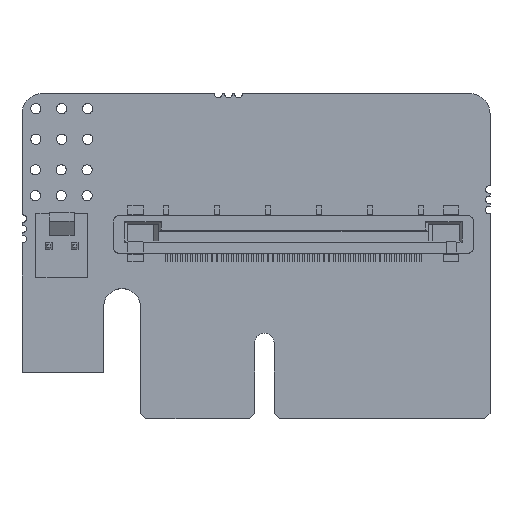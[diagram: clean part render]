
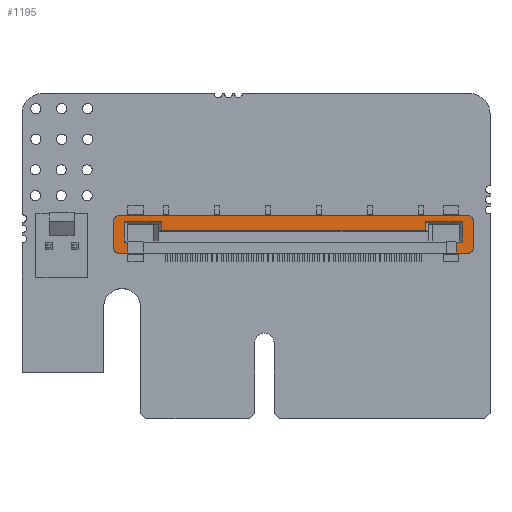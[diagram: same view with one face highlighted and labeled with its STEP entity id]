
A CAD part, top view. The second image highlights one B-rep face of the part: STEP entity #1195.
In plain terms, the highlighted planar face has unit normal (0, 0, 1).
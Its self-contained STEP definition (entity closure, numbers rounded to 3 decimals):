
#398=CIRCLE('',#18782,0.5);
#399=CIRCLE('',#18783,0.5);
#400=CIRCLE('',#18784,0.5);
#401=CIRCLE('',#18785,0.5);
#1195=ADVANCED_FACE('',(#2812),#2154,.T.);
#2154=PLANE('',#18786);
#2812=FACE_OUTER_BOUND('',#3826,.T.);
#3826=EDGE_LOOP('',(#5487,#5488,#5489,#5490,#5491,#5492,#5493,#5494,#5495,
#5496,#5497,#5498,#5499,#5500,#5501,#5502,#5503,#5504,#5505,#5506));
#5487=ORIENTED_EDGE('',*,*,#12477,.T.);
#5488=ORIENTED_EDGE('',*,*,#12478,.T.);
#5489=ORIENTED_EDGE('',*,*,#12479,.T.);
#5490=ORIENTED_EDGE('',*,*,#12480,.T.);
#5491=ORIENTED_EDGE('',*,*,#12481,.T.);
#5492=ORIENTED_EDGE('',*,*,#12482,.F.);
#5493=ORIENTED_EDGE('',*,*,#12483,.T.);
#5494=ORIENTED_EDGE('',*,*,#12484,.T.);
#5495=ORIENTED_EDGE('',*,*,#12485,.T.);
#5496=ORIENTED_EDGE('',*,*,#12486,.T.);
#5497=ORIENTED_EDGE('',*,*,#12487,.T.);
#5498=ORIENTED_EDGE('',*,*,#12488,.T.);
#5499=ORIENTED_EDGE('',*,*,#12489,.T.);
#5500=ORIENTED_EDGE('',*,*,#12490,.T.);
#5501=ORIENTED_EDGE('',*,*,#12491,.T.);
#5502=ORIENTED_EDGE('',*,*,#12492,.F.);
#5503=ORIENTED_EDGE('',*,*,#12493,.T.);
#5504=ORIENTED_EDGE('',*,*,#12494,.T.);
#5505=ORIENTED_EDGE('',*,*,#12495,.T.);
#5506=ORIENTED_EDGE('',*,*,#12496,.T.);
#10629=VERTEX_POINT('',#26657);
#10630=VERTEX_POINT('',#26658);
#10631=VERTEX_POINT('',#26660);
#10632=VERTEX_POINT('',#26662);
#10633=VERTEX_POINT('',#26664);
#10634=VERTEX_POINT('',#26666);
#10635=VERTEX_POINT('',#26668);
#10636=VERTEX_POINT('',#26670);
#10637=VERTEX_POINT('',#26672);
#10638=VERTEX_POINT('',#26674);
#10639=VERTEX_POINT('',#26676);
#10640=VERTEX_POINT('',#26678);
#10641=VERTEX_POINT('',#26680);
#10642=VERTEX_POINT('',#26682);
#10643=VERTEX_POINT('',#26684);
#10644=VERTEX_POINT('',#26686);
#10645=VERTEX_POINT('',#26688);
#10646=VERTEX_POINT('',#26690);
#10647=VERTEX_POINT('',#26692);
#10648=VERTEX_POINT('',#26694);
#12477=EDGE_CURVE('',#10629,#10630,#15109,.T.);
#12478=EDGE_CURVE('',#10630,#10631,#15110,.T.);
#12479=EDGE_CURVE('',#10631,#10632,#15111,.T.);
#12480=EDGE_CURVE('',#10632,#10633,#15112,.T.);
#12481=EDGE_CURVE('',#10633,#10634,#15113,.T.);
#12482=EDGE_CURVE('',#10635,#10634,#15114,.T.);
#12483=EDGE_CURVE('',#10635,#10636,#15115,.T.);
#12484=EDGE_CURVE('',#10636,#10637,#398,.T.);
#12485=EDGE_CURVE('',#10637,#10638,#15116,.T.);
#12486=EDGE_CURVE('',#10638,#10639,#399,.T.);
#12487=EDGE_CURVE('',#10639,#10640,#15117,.T.);
#12488=EDGE_CURVE('',#10640,#10641,#400,.T.);
#12489=EDGE_CURVE('',#10641,#10642,#15118,.T.);
#12490=EDGE_CURVE('',#10642,#10643,#401,.T.);
#12491=EDGE_CURVE('',#10643,#10644,#15119,.T.);
#12492=EDGE_CURVE('',#10645,#10644,#15120,.T.);
#12493=EDGE_CURVE('',#10645,#10646,#15121,.T.);
#12494=EDGE_CURVE('',#10646,#10647,#15122,.T.);
#12495=EDGE_CURVE('',#10647,#10648,#15123,.T.);
#12496=EDGE_CURVE('',#10648,#10629,#15124,.T.);
#15109=LINE('',#26656,#17153);
#15110=LINE('',#26659,#17154);
#15111=LINE('',#26661,#17155);
#15112=LINE('',#26663,#17156);
#15113=LINE('',#26665,#17157);
#15114=LINE('',#26667,#17158);
#15115=LINE('',#26669,#17159);
#15116=LINE('',#26673,#17160);
#15117=LINE('',#26677,#17161);
#15118=LINE('',#26681,#17162);
#15119=LINE('',#26685,#17163);
#15120=LINE('',#26687,#17164);
#15121=LINE('',#26689,#17165);
#15122=LINE('',#26691,#17166);
#15123=LINE('',#26693,#17167);
#15124=LINE('',#26695,#17168);
#17153=VECTOR('',#21053,1.);
#17154=VECTOR('',#21054,1.);
#17155=VECTOR('',#21055,1.);
#17156=VECTOR('',#21056,1.);
#17157=VECTOR('',#21057,1.);
#17158=VECTOR('',#21058,1.);
#17159=VECTOR('',#21059,1.);
#17160=VECTOR('',#21062,1.);
#17161=VECTOR('',#21065,1.);
#17162=VECTOR('',#21068,1.);
#17163=VECTOR('',#21071,1.);
#17164=VECTOR('',#21072,1.);
#17165=VECTOR('',#21073,1.);
#17166=VECTOR('',#21074,1.);
#17167=VECTOR('',#21075,1.);
#17168=VECTOR('',#21076,1.);
#18782=AXIS2_PLACEMENT_3D('',#26671,#21060,#21061);
#18783=AXIS2_PLACEMENT_3D('',#26675,#21063,#21064);
#18784=AXIS2_PLACEMENT_3D('',#26679,#21066,#21067);
#18785=AXIS2_PLACEMENT_3D('',#26683,#21069,#21070);
#18786=AXIS2_PLACEMENT_3D('',#26696,#21077,#21078);
#21053=DIRECTION('',(1.,0.,0.));
#21054=DIRECTION('',(0.,1.,0.));
#21055=DIRECTION('',(1.,0.,0.));
#21056=DIRECTION('',(0.,-1.,0.));
#21057=DIRECTION('',(-1.,0.,0.));
#21058=DIRECTION('',(0.,1.,0.));
#21059=DIRECTION('',(1.,0.,0.));
#21060=DIRECTION('',(0.,0.,1.));
#21061=DIRECTION('',(-1.,0.,0.));
#21062=DIRECTION('',(0.,1.,0.));
#21063=DIRECTION('',(0.,0.,1.));
#21064=DIRECTION('',(-1.,0.,0.));
#21065=DIRECTION('',(-1.,0.,0.));
#21066=DIRECTION('',(0.,0.,1.));
#21067=DIRECTION('',(-1.,0.,0.));
#21068=DIRECTION('',(0.,-1.,0.));
#21069=DIRECTION('',(0.,0.,1.));
#21070=DIRECTION('',(-1.,0.,0.));
#21071=DIRECTION('',(1.,0.,0.));
#21072=DIRECTION('',(0.,-1.,0.));
#21073=DIRECTION('',(-1.,0.,0.));
#21074=DIRECTION('',(0.,1.,0.));
#21075=DIRECTION('',(1.,0.,0.));
#21076=DIRECTION('',(0.,-1.,0.));
#21077=DIRECTION('',(0.,0.,1.));
#21078=DIRECTION('',(1.,0.,0.));
#26656=CARTESIAN_POINT('',(28.225,7.565,4.65));
#26657=CARTESIAN_POINT('',(2.025,7.565,4.65));
#26658=CARTESIAN_POINT('',(27.975,7.565,4.65));
#26659=CARTESIAN_POINT('',(27.975,8.165,4.65));
#26660=CARTESIAN_POINT('',(27.975,8.415,4.65));
#26661=CARTESIAN_POINT('',(31.325,8.415,4.65));
#26662=CARTESIAN_POINT('',(31.575,8.415,4.65));
#26663=CARTESIAN_POINT('',(31.575,6.395,4.65));
#26664=CARTESIAN_POINT('',(31.575,6.395,4.65));
#26665=CARTESIAN_POINT('',(-1.325,6.395,4.65));
#26666=CARTESIAN_POINT('',(31.,6.395,4.65));
#26667=CARTESIAN_POINT('',(31.,5.315,4.65));
#26668=CARTESIAN_POINT('',(31.,5.315,4.65));
#26669=CARTESIAN_POINT('',(32.675,5.315,4.65));
#26670=CARTESIAN_POINT('',(32.175,5.315,4.65));
#26671=CARTESIAN_POINT('',(32.175,5.815,4.65));
#26672=CARTESIAN_POINT('',(32.675,5.815,4.65));
#26673=CARTESIAN_POINT('',(32.675,5.315,4.65));
#26674=CARTESIAN_POINT('',(32.675,8.465,4.65));
#26675=CARTESIAN_POINT('',(32.175,8.465,4.65));
#26676=CARTESIAN_POINT('',(32.175,8.965,4.65));
#26677=CARTESIAN_POINT('',(32.675,8.965,4.65));
#26678=CARTESIAN_POINT('',(-2.175,8.965,4.65));
#26679=CARTESIAN_POINT('',(-2.175,8.465,4.65));
#26680=CARTESIAN_POINT('',(-2.675,8.465,4.65));
#26681=CARTESIAN_POINT('',(-2.675,5.315,4.65));
#26682=CARTESIAN_POINT('',(-2.675,5.815,4.65));
#26683=CARTESIAN_POINT('',(-2.175,5.815,4.65));
#26684=CARTESIAN_POINT('',(-2.175,5.315,4.65));
#26685=CARTESIAN_POINT('',(32.675,5.315,4.65));
#26686=CARTESIAN_POINT('',(-1.25,5.315,4.65));
#26687=CARTESIAN_POINT('',(-1.25,5.315,4.65));
#26688=CARTESIAN_POINT('',(-1.25,6.395,4.65));
#26689=CARTESIAN_POINT('',(-1.325,6.395,4.65));
#26690=CARTESIAN_POINT('',(-1.575,6.395,4.65));
#26691=CARTESIAN_POINT('',(-1.575,8.165,4.65));
#26692=CARTESIAN_POINT('',(-1.575,8.415,4.65));
#26693=CARTESIAN_POINT('',(1.775,8.415,4.65));
#26694=CARTESIAN_POINT('',(2.025,8.415,4.65));
#26695=CARTESIAN_POINT('',(2.025,7.565,4.65));
#26696=CARTESIAN_POINT('',(32.675,8.965,4.65));
